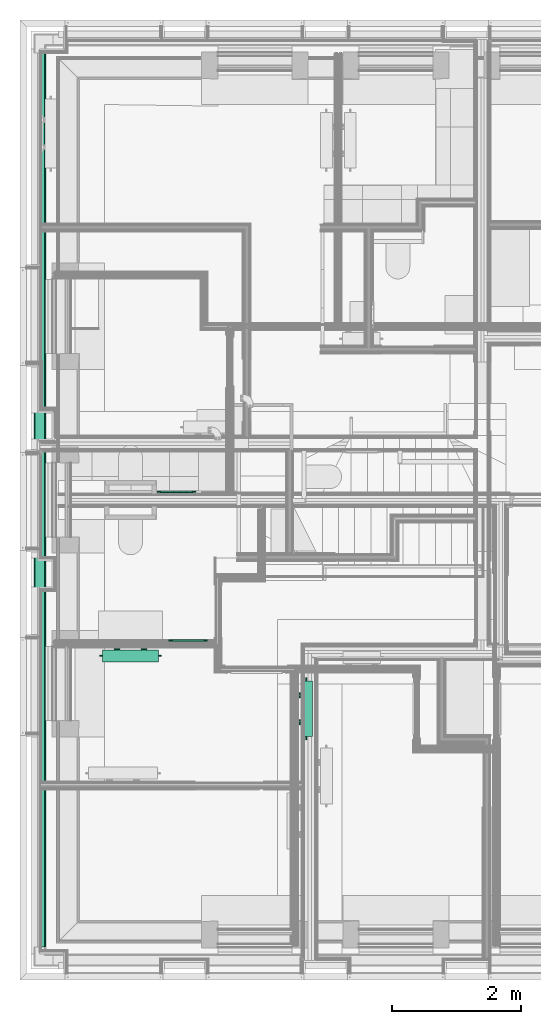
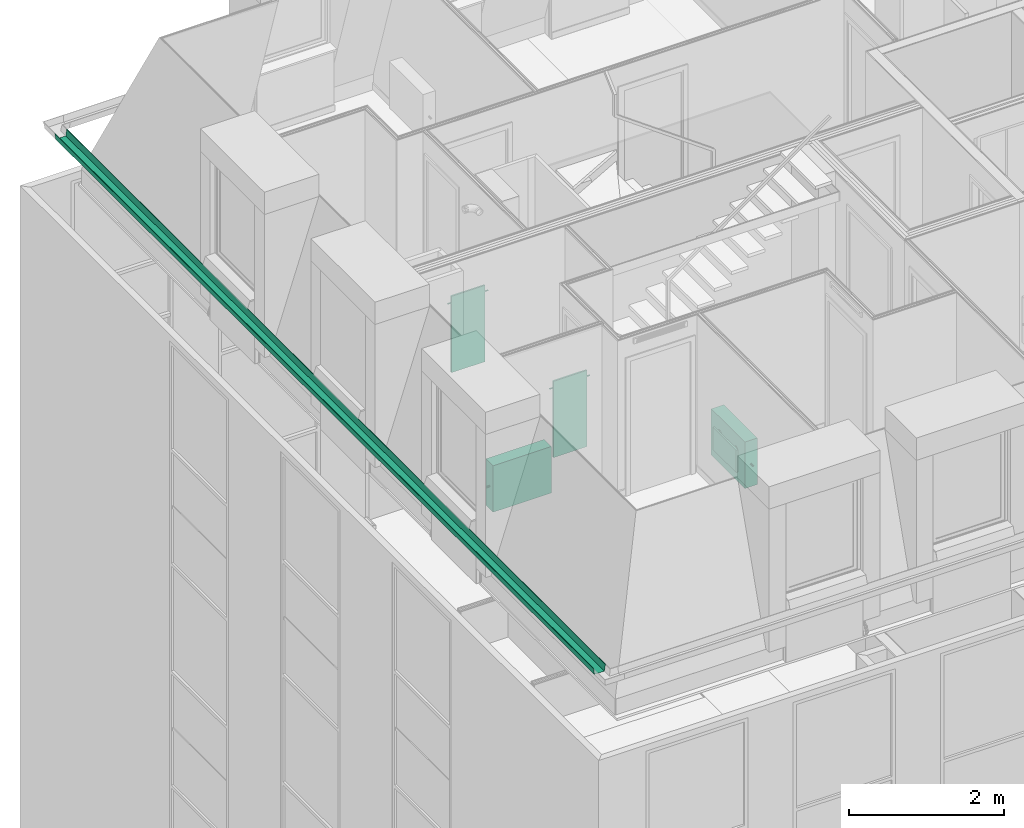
# One storey, part 144 of 169: 4 flow terminals, 1 flow fitting.
"""IFC2X3 building model written with IfcOpenShell, lengths in metres."""

from ifc_helpers import new_model, entity, si_unit, converted_unit, derived_unit, money_unit, direction, frame, origin_with_axes, place, context, subcontext, project, spatial, open_shell, faceted_brep, surface_model, material, type_object, element, save


model = new_model("IFC2X3")

# Units and contexts
model_context = context("Model", 3, precision=1e-05, world=origin_with_axes(), true_north=direction((0.0, 1.0)))
body_context = subcontext(model_context, "Body", "Model", "MODEL_VIEW", scale=1.0)
ifc_project = project(units=[si_unit("LENGTHUNIT", "METRE"), si_unit("AREAUNIT", "SQUARE_METRE"), si_unit("VOLUMEUNIT", "CUBIC_METRE"), si_unit("ABSORBEDDOSEUNIT", "GRAY"), si_unit("AMOUNTOFSUBSTANCEUNIT", "MOLE"), si_unit("DOSEEQUIVALENTUNIT", "SIEVERT"), si_unit("ELECTRICCAPACITANCEUNIT", "FARAD"), si_unit("ELECTRICCHARGEUNIT", "COULOMB"), si_unit("ELECTRICCONDUCTANCEUNIT", "SIEMENS"), si_unit("ELECTRICCURRENTUNIT", "AMPERE"), si_unit("ELECTRICRESISTANCEUNIT", "OHM"), si_unit("ELECTRICVOLTAGEUNIT", "VOLT"), si_unit("ENERGYUNIT", "JOULE"), si_unit("FORCEUNIT", "NEWTON"), si_unit("FREQUENCYUNIT", "HERTZ"), si_unit("ILLUMINANCEUNIT", "LUX"), si_unit("INDUCTANCEUNIT", "HENRY"), si_unit("LUMINOUSFLUXUNIT", "LUMEN"), si_unit("LUMINOUSINTENSITYUNIT", "CANDELA"), si_unit("MAGNETICFLUXDENSITYUNIT", "TESLA"), si_unit("MAGNETICFLUXUNIT", "WEBER"), si_unit("MASSUNIT", "GRAM"), converted_unit("PLANEANGLEUNIT", "degree", entity("IfcReal", 0.0174532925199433), si_unit("PLANEANGLEUNIT", "RADIAN"), dimensions=[0, 0, 0, 0, 0, 0, 0]), si_unit("POWERUNIT", "WATT"), si_unit("PRESSUREUNIT", "PASCAL"), si_unit("RADIOACTIVITYUNIT", "BECQUEREL"), si_unit("SOLIDANGLEUNIT", "STERADIAN"), si_unit("THERMODYNAMICTEMPERATUREUNIT", "KELVIN"), si_unit("TIMEUNIT", "SECOND"), derived_unit("ACCELERATIONUNIT", [(si_unit("LENGTHUNIT", "METRE"), 1), (si_unit("TIMEUNIT", "SECOND"), -2)]), derived_unit("ANGULARVELOCITYUNIT", [(converted_unit("PLANEANGLEUNIT", "degree", entity("IfcReal", 0.0174532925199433), si_unit("PLANEANGLEUNIT", "RADIAN"), dimensions=[0, 0, 0, 0, 0, 0, 0]), 1), (si_unit("TIMEUNIT", "SECOND"), -1)]), derived_unit("CURVATUREUNIT", [(converted_unit("PLANEANGLEUNIT", "degree", entity("IfcReal", 0.0174532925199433), si_unit("PLANEANGLEUNIT", "RADIAN"), dimensions=[0, 0, 0, 0, 0, 0, 0]), 1), (si_unit("LENGTHUNIT", "METRE"), -1)]), derived_unit("DYNAMICVISCOSITYUNIT", [(si_unit("PRESSUREUNIT", "PASCAL"), 1), (si_unit("TIMEUNIT", "SECOND"), 1)]), derived_unit("HEATFLUXDENSITYUNIT", [(si_unit("POWERUNIT", "WATT"), 1), (si_unit("LENGTHUNIT", "METRE"), -2)]), derived_unit("HEATINGVALUEUNIT", [(si_unit("ENERGYUNIT", "JOULE"), 1), (si_unit("MASSUNIT", "GRAM"), -1)]), derived_unit("INTEGERCOUNTRATEUNIT", [(si_unit("TIMEUNIT", "SECOND"), -1)]), derived_unit("IONCONCENTRATIONUNIT", [(si_unit("MASSUNIT", "GRAM"), 1), (si_unit("VOLUMEUNIT", "CUBIC_METRE"), -1)]), derived_unit("ISOTHERMALMOISTURECAPACITYUNIT", [(si_unit("VOLUMEUNIT", "CUBIC_METRE"), 1), (si_unit("MASSUNIT", "GRAM"), -1)]), derived_unit("KINEMATICVISCOSITYUNIT", [(si_unit("AREAUNIT", "SQUARE_METRE"), 1), (si_unit("TIMEUNIT", "SECOND"), -1)]), derived_unit("LINEARFORCEUNIT", [(si_unit("FORCEUNIT", "NEWTON"), 1), (si_unit("LENGTHUNIT", "METRE"), -1)]), derived_unit("LINEARMOMENTUNIT", [(si_unit("FORCEUNIT", "NEWTON"), 1), (si_unit("LENGTHUNIT", "METRE"), -1)]), derived_unit("LINEARSTIFFNESSUNIT", [(si_unit("FORCEUNIT", "NEWTON"), 1), (si_unit("LENGTHUNIT", "METRE"), -1)]), derived_unit("LINEARVELOCITYUNIT", [(si_unit("LENGTHUNIT", "METRE"), 1), (si_unit("TIMEUNIT", "SECOND"), -1)]), derived_unit("LUMINOUSINTENSITYDISTRIBUTIONUNIT", [(si_unit("LUMINOUSINTENSITYUNIT", "CANDELA"), 1), (si_unit("LUMINOUSFLUXUNIT", "LUMEN"), -1)]), derived_unit("MASSDENSITYUNIT", [(si_unit("MASSUNIT", "GRAM"), 1), (si_unit("VOLUMEUNIT", "CUBIC_METRE"), -1)]), derived_unit("MASSFLOWRATEUNIT", [(si_unit("MASSUNIT", "GRAM"), 1), (si_unit("TIMEUNIT", "SECOND"), -1)]), derived_unit("MASSPERLENGTHUNIT", [(si_unit("MASSUNIT", "GRAM"), 1), (si_unit("LENGTHUNIT", "METRE"), -1)]), derived_unit("MODULUSOFELASTICITYUNIT", [(si_unit("FORCEUNIT", "NEWTON"), 1), (si_unit("AREAUNIT", "SQUARE_METRE"), -1)]), derived_unit("MODULUSOFLINEARSUBGRADEREACTIONUNIT", [(si_unit("FORCEUNIT", "NEWTON"), 1), (si_unit("LENGTHUNIT", "METRE"), -2)]), derived_unit("MODULUSOFROTATIONALSUBGRADEREACTIONUNIT", [(si_unit("FORCEUNIT", "NEWTON"), 1), (si_unit("LENGTHUNIT", "METRE"), 1)]), derived_unit("MODULUSOFSUBGRADEREACTIONUNIT", [(si_unit("FORCEUNIT", "NEWTON"), 1), (si_unit("VOLUMEUNIT", "CUBIC_METRE"), -1)]), derived_unit("MOISTUREDIFFUSIVITYUNIT", [(si_unit("VOLUMEUNIT", "CUBIC_METRE"), 1), (si_unit("TIMEUNIT", "SECOND"), -1)]), derived_unit("MOLECULARWEIGHTUNIT", [(si_unit("MASSUNIT", "GRAM"), 1), (si_unit("AMOUNTOFSUBSTANCEUNIT", "MOLE"), -1)]), derived_unit("PLANARFORCEUNIT", [(si_unit("FORCEUNIT", "NEWTON"), 1), (si_unit("LENGTHUNIT", "METRE"), -2)]), derived_unit("ROTATIONALFREQUENCYUNIT", [(si_unit("TIMEUNIT", "SECOND"), -1)]), derived_unit("ROTATIONALMASSUNIT", [(si_unit("MASSUNIT", "GRAM"), 1), (si_unit("LENGTHUNIT", "METRE"), 2)]), derived_unit("ROTATIONALSTIFFNESSUNIT", [(si_unit("FORCEUNIT", "NEWTON"), 1), (si_unit("LENGTHUNIT", "METRE"), 1), (converted_unit("PLANEANGLEUNIT", "degree", entity("IfcReal", 0.0174532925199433), si_unit("PLANEANGLEUNIT", "RADIAN"), dimensions=[0, 0, 0, 0, 0, 0, 0]), -1)]), derived_unit("SECTIONAREAINTEGRALUNIT", [(si_unit("LENGTHUNIT", "METRE"), 5)]), derived_unit("SECTIONMODULUSUNIT", [(si_unit("LENGTHUNIT", "METRE"), 3)]), derived_unit("SHEARMODULUSUNIT", [(si_unit("FORCEUNIT", "NEWTON"), 1), (si_unit("AREAUNIT", "SQUARE_METRE"), -1)]), derived_unit("SOUNDPOWERUNIT", [(si_unit("ENERGYUNIT", "JOULE"), 1), (si_unit("TIMEUNIT", "SECOND"), -1)]), derived_unit("SPECIFICHEATCAPACITYUNIT", [(si_unit("FORCEUNIT", "NEWTON"), 1), (si_unit("MASSUNIT", "GRAM"), -1), (si_unit("THERMODYNAMICTEMPERATUREUNIT", "KELVIN"), -1)]), derived_unit("TEMPERATUREGRADIENTUNIT", [(si_unit("THERMODYNAMICTEMPERATUREUNIT", "KELVIN"), 1), (si_unit("LENGTHUNIT", "METRE"), -1)]), derived_unit("THERMALADMITTANCEUNIT", [(si_unit("POWERUNIT", "WATT"), 1), (si_unit("AREAUNIT", "SQUARE_METRE"), -1), (si_unit("THERMODYNAMICTEMPERATUREUNIT", "KELVIN"), -1)]), derived_unit("THERMALCONDUCTANCEUNIT", [(si_unit("POWERUNIT", "WATT"), 1), (si_unit("LENGTHUNIT", "METRE"), -1), (si_unit("THERMODYNAMICTEMPERATUREUNIT", "KELVIN"), -1)]), derived_unit("THERMALEXPANSIONCOEFFICIENTUNIT", [(si_unit("THERMODYNAMICTEMPERATUREUNIT", "KELVIN"), -1)]), derived_unit("THERMALRESISTANCEUNIT", [(si_unit("AREAUNIT", "SQUARE_METRE"), 1), (si_unit("POWERUNIT", "WATT"), -1)]), derived_unit("THERMALTRANSMITTANCEUNIT", [(si_unit("POWERUNIT", "WATT"), 1), (si_unit("AREAUNIT", "SQUARE_METRE"), -1), (si_unit("THERMODYNAMICTEMPERATUREUNIT", "KELVIN"), -1)]), derived_unit("TORQUEUNIT", [(si_unit("FORCEUNIT", "NEWTON"), 1), (si_unit("LENGTHUNIT", "METRE"), 1)]), derived_unit("VAPORPERMEABILITYUNIT", [(si_unit("MASSUNIT", "GRAM"), 1), (si_unit("TIMEUNIT", "SECOND"), -1)]), derived_unit("VOLUMETRICFLOWRATEUNIT", [(si_unit("VOLUMEUNIT", "CUBIC_METRE"), 1), (si_unit("TIMEUNIT", "SECOND"), -1)]), derived_unit("WARPINGCONSTANTUNIT", [(si_unit("LENGTHUNIT", "METRE"), 6)]), derived_unit("WARPINGMOMENTUNIT", [(si_unit("FORCEUNIT", "NEWTON"), 1), (si_unit("LENGTHUNIT", "METRE"), 2)]), money_unit("GBP")], contexts=[model_context])

# Site, building, storey
site_placement = place(None, origin_with_axes())
site = spatial("IfcSite", under=ifc_project, at=site_placement, Name="Site", CompositionType="ELEMENT")
building_placement = place(site_placement, origin_with_axes())
building = spatial("IfcBuilding", under=site, at=building_placement, Name="Building01", CompositionType="ELEMENT")
storey_placement = place(building_placement, frame((0.0, 0.0, 5.15), z_axis=(0.0, 0.0, 1.0), x_axis=(1.0, 0.0, 0.0)))
storey = spatial("IfcBuildingStorey", under=building, at=storey_placement, Name="1F", CompositionType="ELEMENT", Elevation=5.15)

# Flow fitting
ifc_material_1 = material(Name="A_BSUK_RainwaterDrainageSystems")
pipe_fitting_type = type_object("IfcPipeFittingType", Name="A-RainwaterDrainageSystems-GutterStraight", PredefinedType="NOTDEFINED")
flow_fitting_placement = place(storey_placement, frame((0.214346, 14.385347, 10.629268), z_axis=(0.0, 0.0, 1.0), x_axis=(0.0, -1.0, 0.0)))
element("IfcFlowFitting", 1, at=flow_fitting_placement, inside=storey, type_object=pipe_fitting_type, material=ifc_material_1, Name="A-RainwaterDrainageSystems-GutterStraight", ObjectType="A-RainwaterDrainageSystems-GutterStraight", context=body_context, shape_type="Brep", body=[
    faceted_brep([(13.871001, 0.0, 0.100732), (1e-06, 0.0, 0.100732), (1e-06, 0.0, 0.099144), (13.871001, 0.0, 0.099145), (13.871001, 0.005654, 0.099145), (1e-06, 0.005654, 0.099144), (1e-06, 0.018707, 0.0), (13.871001, 0.018707, 0.0), (1e-06, 0.170099, 0.0), (13.871001, 0.170099, 0.0), (1e-06, 0.183152, 0.099144), (13.871001, 0.183152, 0.099145), (1e-06, 0.188806, 0.099144), (13.871001, 0.188806, 0.099145), (1e-06, 0.188806, 0.100732), (13.871001, 0.188806, 0.100732), (1e-06, 0.18176, 0.100732), (13.871001, 0.18176, 0.100732), (1e-06, 0.168707, 0.001588), (13.871001, 0.168707, 0.001588), (1e-06, 0.020099, 0.001588), (13.871001, 0.020099, 0.001588), (1e-06, 0.007047, 0.100732), (13.871001, 0.007047, 0.100732)], [[[0, 1, 2, 3]], [[4, 5, 6, 7]], [[7, 6, 8, 9]], [[9, 8, 10, 11]], [[11, 10, 12, 13]], [[13, 12, 14, 15]], [[15, 14, 16, 17]], [[17, 16, 18, 19]], [[19, 18, 20, 21]], [[21, 20, 22, 23]], [[23, 22, 1, 0]], [[3, 4, 7, 9, 11, 13, 15, 17, 19, 21, 23, 0]], [[3, 2, 5, 4]], [[1, 22, 20, 18, 16, 14, 12, 10, 8, 6, 5, 2]]]),
])

# Space
space_1_placement = place(storey_placement, frame((12.175, 4.189428, 9.86), z_axis=(0.0, 0.0, 1.0), x_axis=(0.0, 1.0, 0.0)))
space_1 = spatial("IfcSpace", under=storey, at=space_1_placement, Name="25", CompositionType="ELEMENT", InteriorOrExteriorSpace="NOTDEFINED")

# Flow terminals
ifc_material_2 = material(Name="M_BSUK_Ventilation")
space_heater_type_1 = type_object("IfcSpaceHeaterType", Name="M-BmvRadiatorpanel-Panel", PredefinedType="NOTDEFINED")
flow_terminal_1_placement = place(storey_placement, frame((4.445226, 3.777439, 10.495), z_axis=(0.0, 0.0, 1.0), x_axis=(0.0, 1.0, 0.0)))
element("IfcFlowTerminal", 2, at=flow_terminal_1_placement, inside=space_1, type_object=space_heater_type_1, material=ifc_material_2, Name="M-BmvRadiatorpanel-Panel", ObjectType="M-BmvRadiatorpanel-Panel", context=body_context, shape_type="SurfaceModel", body=[
    surface_model("IfcShellBasedSurfaceModel", [(0.865, -0.0925, 0.365), (0.865, 0.0925, 0.365), (0.0, 0.0925, 0.365), (0.0, -0.0925, 0.365), (0.865, -0.0925, -0.365), (0.865, 0.0925, -0.365), (0.0, -0.0925, -0.365), (0.0, 0.0925, -0.365), (0.1325, 0.12025, 0.175), (0.7325, 0.12025, 0.175), (0.7325, 0.14525, 0.175), (0.1325, 0.14525, 0.175), (0.7325, 0.14525, -0.175), (0.1325, 0.14525, -0.175), (0.7325, 0.12025, -0.175), (0.1325, 0.12025, -0.175), (0.2225, 0.0925, 0.0775), (0.2225, 0.12025, 0.0775), (0.239721, 0.12025, 0.080925), (0.239721, 0.0925, 0.080925), (0.25432, 0.12025, 0.09068), (0.25432, 0.0925, 0.09068), (0.264075, 0.12025, 0.105279), (0.264075, 0.0925, 0.105279), (0.2675, 0.12025, 0.1225), (0.2675, 0.0925, 0.1225), (0.264075, 0.12025, 0.139721), (0.264075, 0.0925, 0.139721), (0.25432, 0.12025, 0.15432), (0.25432, 0.0925, 0.15432), (0.239721, 0.12025, 0.164075), (0.239721, 0.0925, 0.164075), (0.2225, 0.12025, 0.1675), (0.2225, 0.0925, 0.1675), (0.205279, 0.12025, 0.164075), (0.205279, 0.0925, 0.164075), (0.19068, 0.12025, 0.15432), (0.19068, 0.0925, 0.15432), (0.180925, 0.12025, 0.139721), (0.180925, 0.0925, 0.139721), (0.1775, 0.12025, 0.1225), (0.1775, 0.0925, 0.1225), (0.180925, 0.12025, 0.105279), (0.180925, 0.0925, 0.105279), (0.19068, 0.12025, 0.09068), (0.19068, 0.0925, 0.09068), (0.205279, 0.12025, 0.080925), (0.205279, 0.0925, 0.080925), (0.6425, 0.0925, 0.0775), (0.6425, 0.12025, 0.0775), (0.659721, 0.12025, 0.080925), (0.659721, 0.0925, 0.080925), (0.67432, 0.12025, 0.09068), (0.67432, 0.0925, 0.09068), (0.684075, 0.12025, 0.105279), (0.684075, 0.0925, 0.105279), (0.6875, 0.12025, 0.1225), (0.6875, 0.0925, 0.1225), (0.684075, 0.12025, 0.139721), (0.684075, 0.0925, 0.139721), (0.67432, 0.12025, 0.15432), (0.67432, 0.0925, 0.15432), (0.659721, 0.12025, 0.164075), (0.659721, 0.0925, 0.164075), (0.6425, 0.12025, 0.1675), (0.6425, 0.0925, 0.1675), (0.625279, 0.12025, 0.164075), (0.625279, 0.0925, 0.164075), (0.61068, 0.12025, 0.15432), (0.61068, 0.0925, 0.15432), (0.600925, 0.12025, 0.139721), (0.600925, 0.0925, 0.139721), (0.5975, 0.12025, 0.1225), (0.5975, 0.0925, 0.1225), (0.600925, 0.12025, 0.105279), (0.600925, 0.0925, 0.105279), (0.61068, 0.12025, 0.09068), (0.61068, 0.0925, 0.09068), (0.625279, 0.12025, 0.080925), (0.625279, 0.0925, 0.080925), (-0.05, 0.0, -0.0225), (0.0, 0.0, -0.0225), (0.0, -0.004784, -0.021548), (-0.05, -0.004784, -0.021548), (0.0, -0.008839, -0.018839), (-0.05, -0.008839, -0.018839), (0.0, -0.011548, -0.014784), (-0.05, -0.011548, -0.014784), (0.0, -0.0125, -0.01), (-0.05, -0.0125, -0.01), (0.0, -0.011548, -0.005216), (-0.05, -0.011548, -0.005216), (0.0, -0.008839, -0.001161), (-0.05, -0.008839, -0.001161), (0.0, -0.004784, 0.001548), (-0.05, -0.004784, 0.001548), (0.0, 0.0, 0.0025), (-0.05, 0.0, 0.0025), (0.0, 0.004784, 0.001548), (-0.05, 0.004784, 0.001548), (0.0, 0.008839, -0.001161), (-0.05, 0.008839, -0.001161), (0.0, 0.011548, -0.005216), (-0.05, 0.011548, -0.005216), (0.0, 0.0125, -0.01), (-0.05, 0.0125, -0.01), (0.0, 0.011548, -0.014784), (-0.05, 0.011548, -0.014784), (0.0, 0.008839, -0.018839), (-0.05, 0.008839, -0.018839), (0.0, 0.004784, -0.021548), (-0.05, 0.004784, -0.021548), (0.915, 0.0, 0.2525), (0.865, 0.0, 0.2525), (0.865, 0.004784, 0.253452), (0.915, 0.004784, 0.253452), (0.865, 0.008839, 0.256161), (0.915, 0.008839, 0.256161), (0.865, 0.011548, 0.260216), (0.915, 0.011548, 0.260216), (0.865, 0.0125, 0.265), (0.915, 0.0125, 0.265), (0.865, 0.011548, 0.269784), (0.915, 0.011548, 0.269784), (0.865, 0.008839, 0.273839), (0.915, 0.008839, 0.273839), (0.865, 0.004784, 0.276548), (0.915, 0.004784, 0.276548), (0.865, 0.0, 0.2775), (0.915, 0.0, 0.2775), (0.865, -0.004784, 0.276548), (0.915, -0.004784, 0.276548), (0.865, -0.008839, 0.273839), (0.915, -0.008839, 0.273839), (0.865, -0.011548, 0.269784), (0.915, -0.011548, 0.269784), (0.865, -0.0125, 0.265), (0.915, -0.0125, 0.265), (0.865, -0.011548, 0.260216), (0.915, -0.011548, 0.260216), (0.865, -0.008839, 0.256161), (0.915, -0.008839, 0.256161), (0.865, -0.004784, 0.253452), (0.915, -0.004784, 0.253452)], [open_shell([[[0, 1, 2, 3]], [[4, 5, 1, 0]], [[6, 7, 5, 4]], [[3, 2, 7, 6]], [[1, 5, 7, 2]], [[3, 6, 4, 0]], [[8, 9, 10, 11]], [[11, 10, 12, 13]], [[13, 12, 14, 15]], [[15, 14, 9, 8]], [[9, 14, 12, 10]], [[11, 13, 15, 8]], [[16, 17, 18, 19]], [[19, 18, 20, 21]], [[21, 20, 22, 23]], [[23, 22, 24, 25]], [[25, 24, 26, 27]], [[27, 26, 28, 29]], [[29, 28, 30, 31]], [[31, 30, 32, 33]], [[33, 32, 34, 35]], [[35, 34, 36, 37]], [[37, 36, 38, 39]], [[39, 38, 40, 41]], [[41, 40, 42, 43]], [[43, 42, 44, 45]], [[45, 44, 46, 47]], [[47, 46, 17, 16]], [[48, 49, 50, 51]], [[51, 50, 52, 53]], [[53, 52, 54, 55]], [[55, 54, 56, 57]], [[57, 56, 58, 59]], [[59, 58, 60, 61]], [[61, 60, 62, 63]], [[63, 62, 64, 65]], [[65, 64, 66, 67]], [[67, 66, 68, 69]], [[69, 68, 70, 71]], [[71, 70, 72, 73]], [[73, 72, 74, 75]], [[75, 74, 76, 77]], [[77, 76, 78, 79]], [[79, 78, 49, 48]], [[80, 81, 82, 83]], [[83, 82, 84, 85]], [[85, 84, 86, 87]], [[87, 86, 88, 89]], [[89, 88, 90, 91]], [[91, 90, 92, 93]], [[93, 92, 94, 95]], [[95, 94, 96, 97]], [[97, 96, 98, 99]], [[99, 98, 100, 101]], [[101, 100, 102, 103]], [[103, 102, 104, 105]], [[105, 104, 106, 107]], [[107, 106, 108, 109]], [[109, 108, 110, 111]], [[111, 110, 81, 80]], [[112, 113, 114, 115]], [[115, 114, 116, 117]], [[117, 116, 118, 119]], [[119, 118, 120, 121]], [[121, 120, 122, 123]], [[123, 122, 124, 125]], [[125, 124, 126, 127]], [[127, 126, 128, 129]], [[129, 128, 130, 131]], [[131, 130, 132, 133]], [[133, 132, 134, 135]], [[135, 134, 136, 137]], [[137, 136, 138, 139]], [[139, 138, 140, 141]], [[141, 140, 142, 143]], [[143, 142, 113, 112]]])]),
])
flow_terminal_2_placement = place(storey_placement, frame((1.282611, 5.029726, 10.495), z_axis=(0.0, 0.0, 1.0), x_axis=(1.0, 0.0, 0.0)))
element("IfcFlowTerminal", 3, at=flow_terminal_2_placement, inside=space_1, type_object=space_heater_type_1, material=ifc_material_2, Name="M-BmvRadiatorpanel-Panel", ObjectType="M-BmvRadiatorpanel-Panel", context=body_context, shape_type="SurfaceModel", body=[
    surface_model("IfcShellBasedSurfaceModel", [(0.865, -0.0925, 0.365), (0.865, 0.0925, 0.365), (0.0, 0.0925, 0.365), (0.0, -0.0925, 0.365), (0.865, -0.0925, -0.365), (0.865, 0.0925, -0.365), (0.0, -0.0925, -0.365), (0.0, 0.0925, -0.365), (0.1325, 0.12025, 0.175), (0.7325, 0.12025, 0.175), (0.7325, 0.14525, 0.175), (0.1325, 0.14525, 0.175), (0.7325, 0.14525, -0.175), (0.1325, 0.14525, -0.175), (0.7325, 0.12025, -0.175), (0.1325, 0.12025, -0.175), (0.2225, 0.0925, 0.0775), (0.2225, 0.12025, 0.0775), (0.239721, 0.12025, 0.080925), (0.239721, 0.0925, 0.080925), (0.25432, 0.12025, 0.09068), (0.25432, 0.0925, 0.09068), (0.264075, 0.12025, 0.105279), (0.264075, 0.0925, 0.105279), (0.2675, 0.12025, 0.1225), (0.2675, 0.0925, 0.1225), (0.264075, 0.12025, 0.139721), (0.264075, 0.0925, 0.139721), (0.25432, 0.12025, 0.15432), (0.25432, 0.0925, 0.15432), (0.239721, 0.12025, 0.164075), (0.239721, 0.0925, 0.164075), (0.2225, 0.12025, 0.1675), (0.2225, 0.0925, 0.1675), (0.205279, 0.12025, 0.164075), (0.205279, 0.0925, 0.164075), (0.19068, 0.12025, 0.15432), (0.19068, 0.0925, 0.15432), (0.180925, 0.12025, 0.139721), (0.180925, 0.0925, 0.139721), (0.1775, 0.12025, 0.1225), (0.1775, 0.0925, 0.1225), (0.180925, 0.12025, 0.105279), (0.180925, 0.0925, 0.105279), (0.19068, 0.12025, 0.09068), (0.19068, 0.0925, 0.09068), (0.205279, 0.12025, 0.080925), (0.205279, 0.0925, 0.080925), (0.6425, 0.0925, 0.0775), (0.6425, 0.12025, 0.0775), (0.659721, 0.12025, 0.080925), (0.659721, 0.0925, 0.080925), (0.67432, 0.12025, 0.09068), (0.67432, 0.0925, 0.09068), (0.684075, 0.12025, 0.105279), (0.684075, 0.0925, 0.105279), (0.6875, 0.12025, 0.1225), (0.6875, 0.0925, 0.1225), (0.684075, 0.12025, 0.139721), (0.684075, 0.0925, 0.139721), (0.67432, 0.12025, 0.15432), (0.67432, 0.0925, 0.15432), (0.659721, 0.12025, 0.164075), (0.659721, 0.0925, 0.164075), (0.6425, 0.12025, 0.1675), (0.6425, 0.0925, 0.1675), (0.625279, 0.12025, 0.164075), (0.625279, 0.0925, 0.164075), (0.61068, 0.12025, 0.15432), (0.61068, 0.0925, 0.15432), (0.600925, 0.12025, 0.139721), (0.600925, 0.0925, 0.139721), (0.5975, 0.12025, 0.1225), (0.5975, 0.0925, 0.1225), (0.600925, 0.12025, 0.105279), (0.600925, 0.0925, 0.105279), (0.61068, 0.12025, 0.09068), (0.61068, 0.0925, 0.09068), (0.625279, 0.12025, 0.080925), (0.625279, 0.0925, 0.080925), (-0.05, 0.0, -0.0225), (0.0, 0.0, -0.0225), (0.0, -0.004784, -0.021548), (-0.05, -0.004784, -0.021548), (0.0, -0.008839, -0.018839), (-0.05, -0.008839, -0.018839), (0.0, -0.011548, -0.014784), (-0.05, -0.011548, -0.014784), (0.0, -0.0125, -0.01), (-0.05, -0.0125, -0.01), (0.0, -0.011548, -0.005216), (-0.05, -0.011548, -0.005216), (0.0, -0.008839, -0.001161), (-0.05, -0.008839, -0.001161), (0.0, -0.004784, 0.001548), (-0.05, -0.004784, 0.001548), (0.0, 0.0, 0.0025), (-0.05, 0.0, 0.0025), (0.0, 0.004784, 0.001548), (-0.05, 0.004784, 0.001548), (0.0, 0.008839, -0.001161), (-0.05, 0.008839, -0.001161), (0.0, 0.011548, -0.005216), (-0.05, 0.011548, -0.005216), (0.0, 0.0125, -0.01), (-0.05, 0.0125, -0.01), (0.0, 0.011548, -0.014784), (-0.05, 0.011548, -0.014784), (0.0, 0.008839, -0.018839), (-0.05, 0.008839, -0.018839), (0.0, 0.004784, -0.021548), (-0.05, 0.004784, -0.021548), (0.915, 0.0, 0.2525), (0.865, 0.0, 0.2525), (0.865, 0.004784, 0.253452), (0.915, 0.004784, 0.253452), (0.865, 0.008839, 0.256161), (0.915, 0.008839, 0.256161), (0.865, 0.011548, 0.260216), (0.915, 0.011548, 0.260216), (0.865, 0.0125, 0.265), (0.915, 0.0125, 0.265), (0.865, 0.011548, 0.269784), (0.915, 0.011548, 0.269784), (0.865, 0.008839, 0.273839), (0.915, 0.008839, 0.273839), (0.865, 0.004784, 0.276548), (0.915, 0.004784, 0.276548), (0.865, 0.0, 0.2775), (0.915, 0.0, 0.2775), (0.865, -0.004784, 0.276548), (0.915, -0.004784, 0.276548), (0.865, -0.008839, 0.273839), (0.915, -0.008839, 0.273839), (0.865, -0.011548, 0.269784), (0.915, -0.011548, 0.269784), (0.865, -0.0125, 0.265), (0.915, -0.0125, 0.265), (0.865, -0.011548, 0.260216), (0.915, -0.011548, 0.260216), (0.865, -0.008839, 0.256161), (0.915, -0.008839, 0.256161), (0.865, -0.004784, 0.253452), (0.915, -0.004784, 0.253452)], [open_shell([[[0, 1, 2, 3]], [[4, 5, 1, 0]], [[6, 7, 5, 4]], [[3, 2, 7, 6]], [[1, 5, 7, 2]], [[3, 6, 4, 0]], [[8, 9, 10, 11]], [[11, 10, 12, 13]], [[13, 12, 14, 15]], [[15, 14, 9, 8]], [[9, 14, 12, 10]], [[11, 13, 15, 8]], [[16, 17, 18, 19]], [[19, 18, 20, 21]], [[21, 20, 22, 23]], [[23, 22, 24, 25]], [[25, 24, 26, 27]], [[27, 26, 28, 29]], [[29, 28, 30, 31]], [[31, 30, 32, 33]], [[33, 32, 34, 35]], [[35, 34, 36, 37]], [[37, 36, 38, 39]], [[39, 38, 40, 41]], [[41, 40, 42, 43]], [[43, 42, 44, 45]], [[45, 44, 46, 47]], [[47, 46, 17, 16]], [[48, 49, 50, 51]], [[51, 50, 52, 53]], [[53, 52, 54, 55]], [[55, 54, 56, 57]], [[57, 56, 58, 59]], [[59, 58, 60, 61]], [[61, 60, 62, 63]], [[63, 62, 64, 65]], [[65, 64, 66, 67]], [[67, 66, 68, 69]], [[69, 68, 70, 71]], [[71, 70, 72, 73]], [[73, 72, 74, 75]], [[75, 74, 76, 77]], [[77, 76, 78, 79]], [[79, 78, 49, 48]], [[80, 81, 82, 83]], [[83, 82, 84, 85]], [[85, 84, 86, 87]], [[87, 86, 88, 89]], [[89, 88, 90, 91]], [[91, 90, 92, 93]], [[93, 92, 94, 95]], [[95, 94, 96, 97]], [[97, 96, 98, 99]], [[99, 98, 100, 101]], [[101, 100, 102, 103]], [[103, 102, 104, 105]], [[105, 104, 106, 107]], [[107, 106, 108, 109]], [[109, 108, 110, 111]], [[111, 110, 81, 80]], [[112, 113, 114, 115]], [[115, 114, 116, 117]], [[117, 116, 118, 119]], [[119, 118, 120, 121]], [[121, 120, 122, 123]], [[123, 122, 124, 125]], [[125, 124, 126, 127]], [[127, 126, 128, 129]], [[129, 128, 130, 131]], [[131, 130, 132, 133]], [[133, 132, 134, 135]], [[135, 134, 136, 137]], [[137, 136, 138, 139]], [[139, 138, 140, 141]], [[141, 140, 142, 143]], [[143, 142, 113, 112]]])]),
])

# Space
space_2_placement = place(storey_placement, frame((1.009939, 13.890379, 9.86), z_axis=(0.0, 0.0, 1.0), x_axis=(0.0, -1.0, 0.0)))
space_2 = spatial("IfcSpace", under=storey, at=space_2_placement, Name="26", CompositionType="ELEMENT", InteriorOrExteriorSpace="NOTDEFINED")

# Flow terminals
space_heater_type_2 = type_object("IfcSpaceHeaterType", Name="M-BmvRadiator-Column", PredefinedType="NOTDEFINED")
flow_terminal_3_placement = place(storey_placement, frame((2.177834, 7.576412, 11.015), z_axis=(0.0, 0.0, 1.0), x_axis=(1.0, 0.0, 0.0)))
element("IfcFlowTerminal", 4, at=flow_terminal_3_placement, inside=space_2, type_object=space_heater_type_2, material=ifc_material_2, Name="M-BmvRadiator-Column", ObjectType="M-BmvRadiator-Column", context=body_context, shape_type="SurfaceModel", body=[
    surface_model("IfcShellBasedSurfaceModel", [(0.0, -0.0125, 0.6), (0.0, -0.0125, -0.6), (0.0, 0.0125, -0.6), (0.0, 0.0125, 0.6), (0.5, -0.0125, 0.6), (0.5, -0.0125, -0.6), (0.5, 0.0125, -0.6), (0.5, 0.0125, 0.6), (0.1, 0.0125, 0.6), (0.1, -0.0125, 0.6), (0.1, -0.0125, -0.6), (0.1, 0.0125, -0.6), (0.2, 0.0125, 0.6), (0.2, -0.0125, 0.6), (0.2, -0.0125, -0.6), (0.2, 0.0125, -0.6), (0.3, 0.0125, 0.6), (0.3, -0.0125, 0.6), (0.3, -0.0125, -0.6), (0.3, 0.0125, -0.6), (0.4, 0.0125, 0.6), (0.4, -0.0125, 0.6), (0.4, -0.0125, -0.6), (0.4, 0.0125, -0.6), (-0.05, 0.0, 0.4825), (0.0, 0.0, 0.4825), (0.0, -0.003827, 0.483261), (-0.05, -0.003827, 0.483261), (0.0, -0.007071, 0.485429), (-0.05, -0.007071, 0.485429), (0.0, -0.009239, 0.488673), (-0.05, -0.009239, 0.488673), (0.0, -0.01, 0.4925), (-0.05, -0.01, 0.4925), (0.0, -0.009239, 0.496327), (-0.05, -0.009239, 0.496327), (0.0, -0.007071, 0.499571), (-0.05, -0.007071, 0.499571), (0.0, -0.003827, 0.501739), (-0.05, -0.003827, 0.501739), (0.0, 0.0, 0.5025), (-0.05, 0.0, 0.5025), (0.0, 0.003827, 0.501739), (-0.05, 0.003827, 0.501739), (0.0, 0.007071, 0.499571), (-0.05, 0.007071, 0.499571), (0.0, 0.009239, 0.496327), (-0.05, 0.009239, 0.496327), (0.0, 0.01, 0.4925), (-0.05, 0.01, 0.4925), (0.0, 0.009239, 0.488673), (-0.05, 0.009239, 0.488673), (0.0, 0.007071, 0.485429), (-0.05, 0.007071, 0.485429), (0.0, 0.003827, 0.483261), (-0.05, 0.003827, 0.483261), (0.55, 0.0, 0.4884), (0.5, 0.0, 0.4884), (0.5, 0.003827, 0.489161), (0.55, 0.003827, 0.489161), (0.5, 0.007071, 0.491329), (0.55, 0.007071, 0.491329), (0.5, 0.009239, 0.494573), (0.55, 0.009239, 0.494573), (0.5, 0.01, 0.4984), (0.55, 0.01, 0.4984), (0.5, 0.009239, 0.502227), (0.55, 0.009239, 0.502227), (0.5, 0.007071, 0.505471), (0.55, 0.007071, 0.505471), (0.5, 0.003827, 0.507639), (0.55, 0.003827, 0.507639), (0.5, 0.0, 0.5084), (0.55, 0.0, 0.5084), (0.5, -0.003827, 0.507639), (0.55, -0.003827, 0.507639), (0.5, -0.007071, 0.505471), (0.55, -0.007071, 0.505471), (0.5, -0.009239, 0.502227), (0.55, -0.009239, 0.502227), (0.5, -0.01, 0.4984), (0.55, -0.01, 0.4984), (0.5, -0.009239, 0.494573), (0.55, -0.009239, 0.494573), (0.5, -0.007071, 0.491329), (0.55, -0.007071, 0.491329), (0.5, -0.003827, 0.489161), (0.55, -0.003827, 0.489161)], [open_shell([[[0, 1, 2, 3]], [[4, 5, 6, 7]], [[8, 3, 0, 9]], [[9, 0, 1, 10]], [[10, 1, 2, 11]], [[11, 2, 3, 8]], [[12, 8, 9, 13]], [[13, 9, 10, 14]], [[14, 10, 11, 15]], [[15, 11, 8, 12]], [[16, 12, 13, 17]], [[17, 13, 14, 18]], [[18, 14, 15, 19]], [[19, 15, 12, 16]], [[20, 16, 17, 21]], [[21, 17, 18, 22]], [[22, 18, 19, 23]], [[23, 19, 16, 20]], [[7, 20, 21, 4]], [[4, 21, 22, 5]], [[5, 22, 23, 6]], [[6, 23, 20, 7]], [[24, 25, 26, 27]], [[27, 26, 28, 29]], [[29, 28, 30, 31]], [[31, 30, 32, 33]], [[33, 32, 34, 35]], [[35, 34, 36, 37]], [[37, 36, 38, 39]], [[39, 38, 40, 41]], [[41, 40, 42, 43]], [[43, 42, 44, 45]], [[45, 44, 46, 47]], [[47, 46, 48, 49]], [[49, 48, 50, 51]], [[51, 50, 52, 53]], [[53, 52, 54, 55]], [[55, 54, 25, 24]], [[56, 57, 58, 59]], [[59, 58, 60, 61]], [[61, 60, 62, 63]], [[63, 62, 64, 65]], [[65, 64, 66, 67]], [[67, 66, 68, 69]], [[69, 68, 70, 71]], [[71, 70, 72, 73]], [[73, 72, 74, 75]], [[75, 74, 76, 77]], [[77, 76, 78, 79]], [[79, 78, 80, 81]], [[81, 80, 82, 83]], [[83, 82, 84, 85]], [[85, 84, 86, 87]], [[87, 86, 57, 56]]])]),
])
flow_terminal_4_placement = place(storey_placement, frame((2.359875, 5.268454, 11.015), z_axis=(0.0, 0.0, 1.0), x_axis=(1.0, 0.0, 0.0)))
element("IfcFlowTerminal", 5, at=flow_terminal_4_placement, inside=space_1, type_object=space_heater_type_2, material=ifc_material_2, Name="M-BmvRadiator-Column", ObjectType="M-BmvRadiator-Column", context=body_context, shape_type="SurfaceModel", body=[
    surface_model("IfcShellBasedSurfaceModel", [(0.0, -0.0125, 0.6), (0.0, -0.0125, -0.6), (0.0, 0.0125, -0.6), (0.0, 0.0125, 0.6), (0.5, -0.0125, 0.6), (0.5, -0.0125, -0.6), (0.5, 0.0125, -0.6), (0.5, 0.0125, 0.6), (0.1, 0.0125, 0.6), (0.1, -0.0125, 0.6), (0.1, -0.0125, -0.6), (0.1, 0.0125, -0.6), (0.2, 0.0125, 0.6), (0.2, -0.0125, 0.6), (0.2, -0.0125, -0.6), (0.2, 0.0125, -0.6), (0.3, 0.0125, 0.6), (0.3, -0.0125, 0.6), (0.3, -0.0125, -0.6), (0.3, 0.0125, -0.6), (0.4, 0.0125, 0.6), (0.4, -0.0125, 0.6), (0.4, -0.0125, -0.6), (0.4, 0.0125, -0.6), (-0.05, 0.0, 0.4825), (0.0, 0.0, 0.4825), (0.0, -0.003827, 0.483261), (-0.05, -0.003827, 0.483261), (0.0, -0.007071, 0.485429), (-0.05, -0.007071, 0.485429), (0.0, -0.009239, 0.488673), (-0.05, -0.009239, 0.488673), (0.0, -0.01, 0.4925), (-0.05, -0.01, 0.4925), (0.0, -0.009239, 0.496327), (-0.05, -0.009239, 0.496327), (0.0, -0.007071, 0.499571), (-0.05, -0.007071, 0.499571), (0.0, -0.003827, 0.501739), (-0.05, -0.003827, 0.501739), (0.0, 0.0, 0.5025), (-0.05, 0.0, 0.5025), (0.0, 0.003827, 0.501739), (-0.05, 0.003827, 0.501739), (0.0, 0.007071, 0.499571), (-0.05, 0.007071, 0.499571), (0.0, 0.009239, 0.496327), (-0.05, 0.009239, 0.496327), (0.0, 0.01, 0.4925), (-0.05, 0.01, 0.4925), (0.0, 0.009239, 0.488673), (-0.05, 0.009239, 0.488673), (0.0, 0.007071, 0.485429), (-0.05, 0.007071, 0.485429), (0.0, 0.003827, 0.483261), (-0.05, 0.003827, 0.483261), (0.55, 0.0, 0.4884), (0.5, 0.0, 0.4884), (0.5, 0.003827, 0.489161), (0.55, 0.003827, 0.489161), (0.5, 0.007071, 0.491329), (0.55, 0.007071, 0.491329), (0.5, 0.009239, 0.494573), (0.55, 0.009239, 0.494573), (0.5, 0.01, 0.4984), (0.55, 0.01, 0.4984), (0.5, 0.009239, 0.502227), (0.55, 0.009239, 0.502227), (0.5, 0.007071, 0.505471), (0.55, 0.007071, 0.505471), (0.5, 0.003827, 0.507639), (0.55, 0.003827, 0.507639), (0.5, 0.0, 0.5084), (0.55, 0.0, 0.5084), (0.5, -0.003827, 0.507639), (0.55, -0.003827, 0.507639), (0.5, -0.007071, 0.505471), (0.55, -0.007071, 0.505471), (0.5, -0.009239, 0.502227), (0.55, -0.009239, 0.502227), (0.5, -0.01, 0.4984), (0.55, -0.01, 0.4984), (0.5, -0.009239, 0.494573), (0.55, -0.009239, 0.494573), (0.5, -0.007071, 0.491329), (0.55, -0.007071, 0.491329), (0.5, -0.003827, 0.489161), (0.55, -0.003827, 0.489161)], [open_shell([[[0, 1, 2, 3]], [[4, 5, 6, 7]], [[8, 3, 0, 9]], [[9, 0, 1, 10]], [[10, 1, 2, 11]], [[11, 2, 3, 8]], [[12, 8, 9, 13]], [[13, 9, 10, 14]], [[14, 10, 11, 15]], [[15, 11, 8, 12]], [[16, 12, 13, 17]], [[17, 13, 14, 18]], [[18, 14, 15, 19]], [[19, 15, 12, 16]], [[20, 16, 17, 21]], [[21, 17, 18, 22]], [[22, 18, 19, 23]], [[23, 19, 16, 20]], [[7, 20, 21, 4]], [[4, 21, 22, 5]], [[5, 22, 23, 6]], [[6, 23, 20, 7]], [[24, 25, 26, 27]], [[27, 26, 28, 29]], [[29, 28, 30, 31]], [[31, 30, 32, 33]], [[33, 32, 34, 35]], [[35, 34, 36, 37]], [[37, 36, 38, 39]], [[39, 38, 40, 41]], [[41, 40, 42, 43]], [[43, 42, 44, 45]], [[45, 44, 46, 47]], [[47, 46, 48, 49]], [[49, 48, 50, 51]], [[51, 50, 52, 53]], [[53, 52, 54, 55]], [[55, 54, 25, 24]], [[56, 57, 58, 59]], [[59, 58, 60, 61]], [[61, 60, 62, 63]], [[63, 62, 64, 65]], [[65, 64, 66, 67]], [[67, 66, 68, 69]], [[69, 68, 70, 71]], [[71, 70, 72, 73]], [[73, 72, 74, 75]], [[75, 74, 76, 77]], [[77, 76, 78, 79]], [[79, 78, 80, 81]], [[81, 80, 82, 83]], [[83, 82, 84, 85]], [[85, 84, 86, 87]], [[87, 86, 57, 56]]])]),
])

save(model, "model.ifc")
